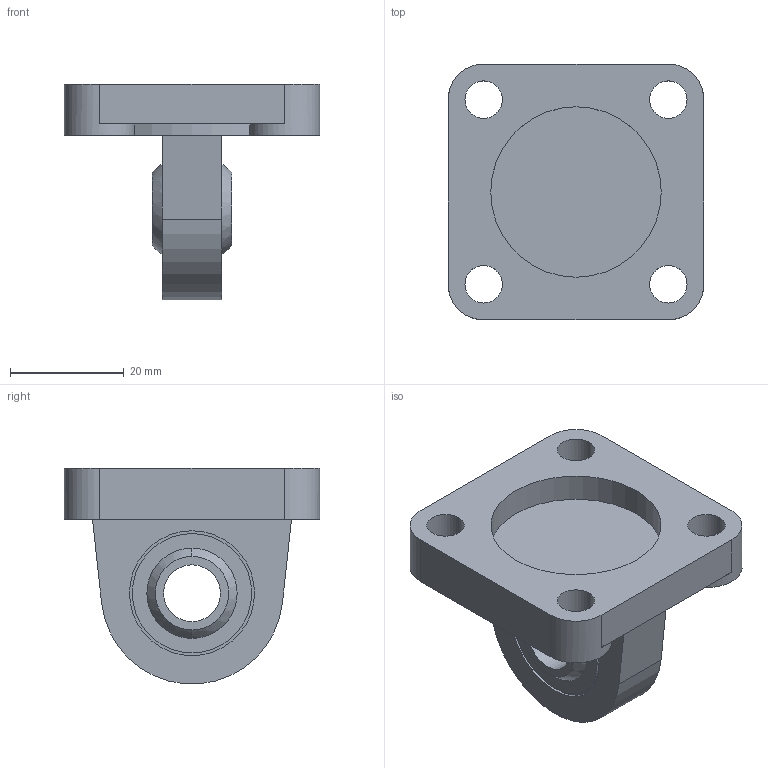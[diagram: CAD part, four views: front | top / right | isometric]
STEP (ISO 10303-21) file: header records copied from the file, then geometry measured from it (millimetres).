
FILE_DESCRIPTION((''),'2;1');
FILE_NAME('CMSS032.stp','2008-02-15T13:30:53',('BP'),('AZ PNEUMATICA S.r.l.'),'Mechanical Desktop 2006','Mechanical Desktop 2006','Via Marco Biagi 6, 20020 Misinto (MI) Italia, azpneu@tin.it');
FILE_SCHEMA(('CONFIG_CONTROL_DESIGN'));
Length unit declared in the file: millimetre
Products named in the file (2): USKE_CILINDRI3; USKA
Assembly tree (1 placements, depth 2):
  USKE_CILINDRI3
    USKA
Bounding box: 45 x 45 x 37.94 mm (x, y, z)
Volume: 20273.9 mm3; surface area: 9271.2 mm2
Topology: 1 solids, 1 shells, 62 faces, 146 edges, 98 vertices
Faces by surface type: cylinder 35, plane 23, sphere 4
Entity records: 1963 total; most frequent: DIRECTION 362, CARTESIAN_POINT 308, ORIENTED_EDGE 292, AXIS2_PLACEMENT_3D 152, EDGE_CURVE 146, VERTEX_POINT 98, CIRCLE 88, EDGE_LOOP 84
